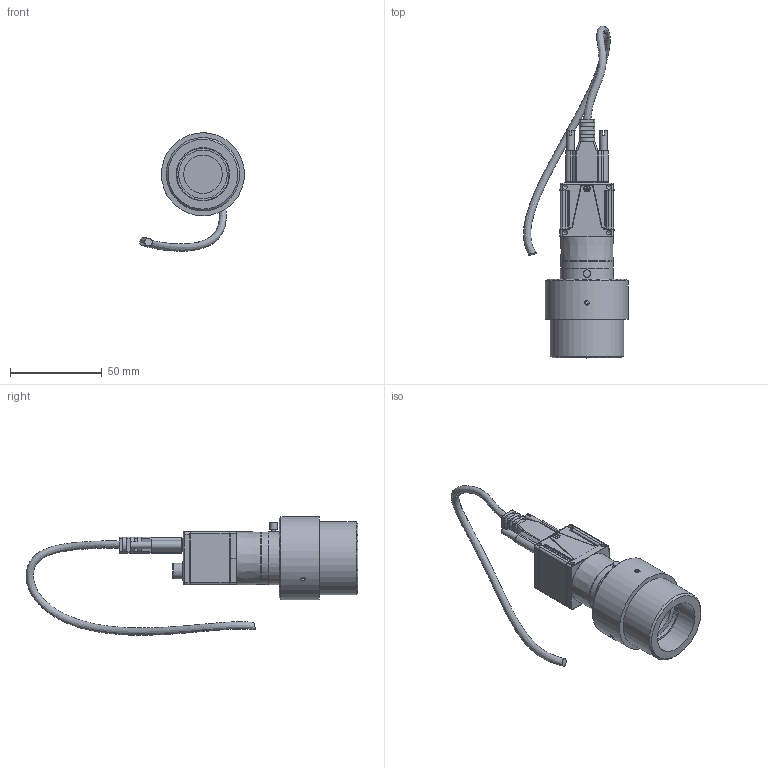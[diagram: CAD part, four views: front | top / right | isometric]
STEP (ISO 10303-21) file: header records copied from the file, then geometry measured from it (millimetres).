
FILE_DESCRIPTION(/* description */ ('OptiVID'),/* implementation_level */ '2;1');
FILE_NAME(/* name */ 'S:\Bureau-Technique\Vidéo\MA 730-001-101.stp',/* time_stamp */ '2018-04-09T16:35:17+02:00',/* author */ ('ms'),/* organization */ ('Marcel Aubert'),/* preprocessor_version */ 'ST-DEVELOPER v17',/* originating_system */ 'Autodesk Inventor 2018',/* authorisation */ '');
FILE_SCHEMA (('AUTOMOTIVE_DESIGN { 1 0 10303 214 3 1 1 }'));
Length unit declared in the file: millimetre
Products named in the file (13): MA 730-001-101; MA 726-001-101; MA 726-001-000; MA 726-001-000-100; MA 726-001-000-101; MA 726-006-000-102; 88-057-12; ISO 4026 - M3 x 8; ISO 4026 - M2 x 3; CAM-120-284; CAB-156-030; CNT-052-03; CAB-083(b)
Assembly tree (14 placements, depth 4):
  MA 730-001-101
    MA 726-001-101
      MA 726-001-000
        MA 726-001-000-100
        MA 726-001-000-101
        MA 726-006-000-102
      88-057-12
      ISO 4026 - M3 x 8  x3
      ISO 4026 - M2 x 3
    CAM-120-284
    CAB-156-030
      CNT-052-03
      CAB-083(b)
Bounding box: 57.25 x 181.09 x 64.62 mm (x, y, z)
Volume: 84204.2 mm3; surface area: 36467 mm2
Topology: 18 solids, 18 shells, 902 faces, 2394 edges, 1583 vertices
Faces by surface type: plane 552, cylinder 233, cone 53, bspline 35, torus 27, sphere 2
Full cylindrical faces by diameter (mm): 0.4 x8, 1.567 x2, 1.6 x2, 2 x4, 2.459 x3, 2.5 x4, 3 x5, 3.2 x1, 3.9 x2, 4 x1, 6.8 x1, 8.5 x1, 8.6 x3, 10 x1, 10.6 x1, 21 x1, 22.5 x2, 22.7 x1, 24.2 x1, 24.8 x1, 25.4 x1, 26 x1, 26.5 x1, 28.3 x1, 28.5 x1, 28.6 x1, 29 x2, 29.1 x1, 40 x1, 45.3 x1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
Entity records: 42124 total; most frequent: CARTESIAN_POINT 19171, DIRECTION 4649, ORIENTED_EDGE 4646, EDGE_CURVE 2323, AXIS2_PLACEMENT_3D 1577, VERTEX_POINT 1543, LINE 1495, VECTOR 1495
